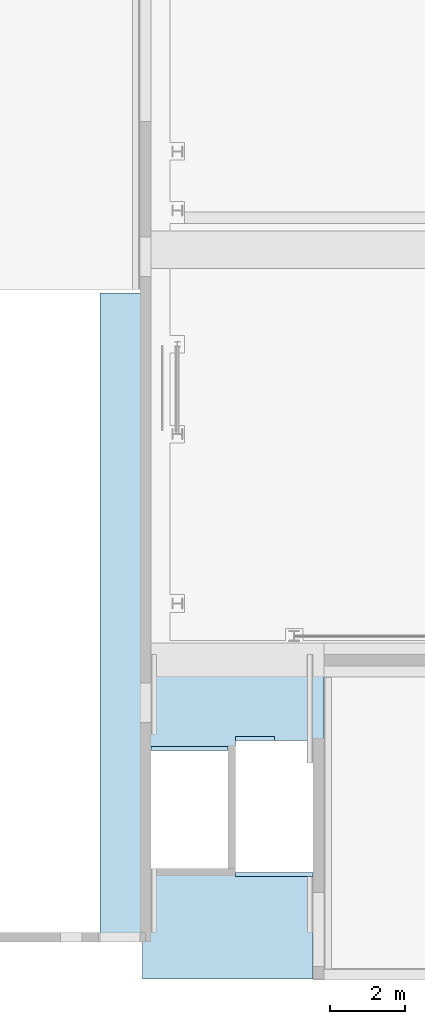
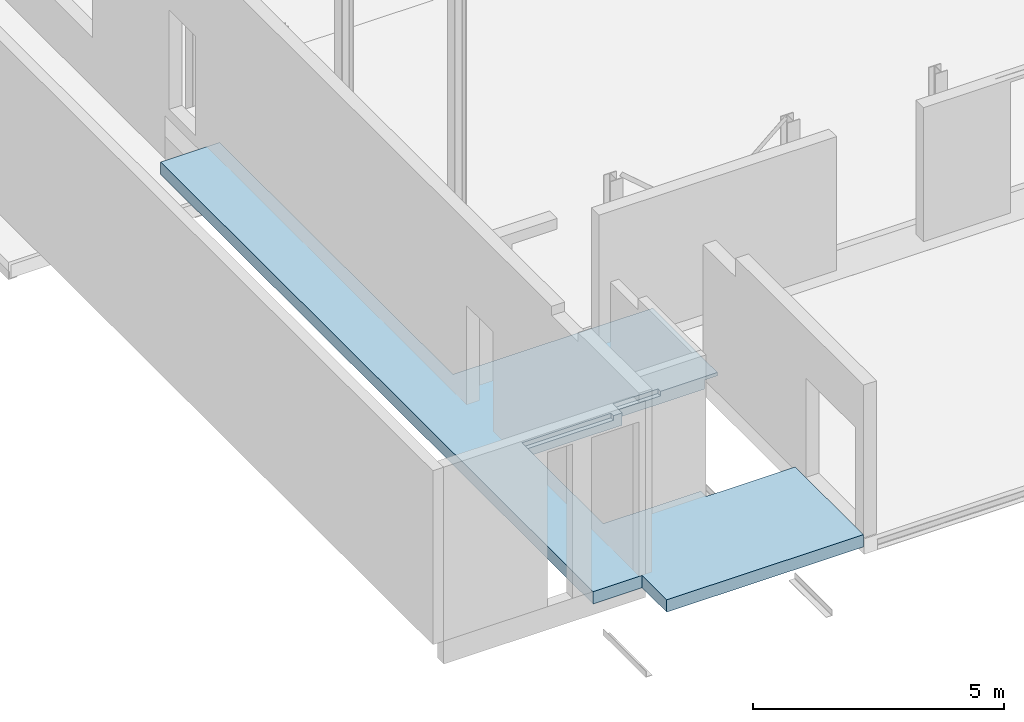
# One storey, part 32 of 37: 1 slab.
"""IFC2X3 building model written with IfcOpenShell, lengths in millimetres."""

from ifc_helpers import new_model, entity, si_unit, converted_unit, derived_unit, direction, frame, origin, place, context, subcontext, project, spatial, faceted_brep, material, type_object, element, save


model = new_model("IFC2X3")

# Units and contexts
model_context = context("Model", 3, precision=0.01, world=origin(), true_north=direction((6.12303176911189e-17, 1.0)))
body_context = subcontext(model_context, "Body", "Model", "MODEL_VIEW")
ifc_project = project(units=[si_unit("LENGTHUNIT", "METRE", prefix="MILLI"), si_unit("AREAUNIT", "SQUARE_METRE", prefix="MILLI"), si_unit("VOLUMEUNIT", "CUBIC_METRE"), converted_unit("PLANEANGLEUNIT", "DEGREE", entity("IfcRatioMeasure", 0.0174532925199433), si_unit("PLANEANGLEUNIT", "RADIAN"), dimensions=[0, 0, 0, 0, 0, 0, 0]), si_unit("MASSUNIT", "GRAM", prefix="KILO"), derived_unit("MASSDENSITYUNIT", [(si_unit("MASSUNIT", "GRAM", prefix="KILO"), 1), (si_unit("LENGTHUNIT", "METRE"), -3)]), derived_unit("MOMENTOFINERTIAUNIT", [(si_unit("LENGTHUNIT", "METRE"), 4)]), si_unit("TIMEUNIT", "SECOND"), si_unit("FREQUENCYUNIT", "HERTZ"), si_unit("THERMODYNAMICTEMPERATUREUNIT", "DEGREE_CELSIUS"), derived_unit("THERMALTRANSMITTANCEUNIT", [(si_unit("MASSUNIT", "GRAM", prefix="KILO"), 1), (si_unit("THERMODYNAMICTEMPERATUREUNIT", "KELVIN"), -1), (si_unit("TIMEUNIT", "SECOND"), -3)]), derived_unit("VOLUMETRICFLOWRATEUNIT", [(si_unit("LENGTHUNIT", "METRE"), 3), (si_unit("TIMEUNIT", "SECOND"), -1)]), si_unit("ELECTRICCURRENTUNIT", "AMPERE"), si_unit("ELECTRICVOLTAGEUNIT", "VOLT"), si_unit("POWERUNIT", "WATT"), si_unit("FORCEUNIT", "NEWTON", prefix="KILO"), si_unit("ILLUMINANCEUNIT", "LUX"), si_unit("LUMINOUSFLUXUNIT", "LUMEN"), si_unit("LUMINOUSINTENSITYUNIT", "CANDELA"), derived_unit("USERDEFINED", [(si_unit("MASSUNIT", "GRAM", prefix="KILO"), -1), (si_unit("LENGTHUNIT", "METRE"), -2), (si_unit("TIMEUNIT", "SECOND"), 3), (si_unit("LUMINOUSFLUXUNIT", "LUMEN"), 1)]), derived_unit("LINEARVELOCITYUNIT", [(si_unit("LENGTHUNIT", "METRE"), 1), (si_unit("TIMEUNIT", "SECOND"), -1)]), si_unit("PRESSUREUNIT", "PASCAL"), derived_unit("USERDEFINED", [(si_unit("LENGTHUNIT", "METRE"), -2), (si_unit("MASSUNIT", "GRAM", prefix="KILO"), 1), (si_unit("TIMEUNIT", "SECOND"), -2)]), derived_unit("LINEARFORCEUNIT", [(si_unit("MASSUNIT", "GRAM", prefix="KILO"), 1), (si_unit("LENGTHUNIT", "METRE"), 1), (si_unit("TIMEUNIT", "SECOND"), -2), (si_unit("LENGTHUNIT", "METRE"), -1)]), derived_unit("PLANARFORCEUNIT", [(si_unit("MASSUNIT", "GRAM", prefix="KILO"), 1), (si_unit("LENGTHUNIT", "METRE"), 1), (si_unit("TIMEUNIT", "SECOND"), -2), (si_unit("LENGTHUNIT", "METRE"), -2)])], contexts=[model_context])

# Site, building, storey
site_placement = place(None, origin())
site = spatial("IfcSite", under=ifc_project, at=site_placement, Name="Theater aan de Parade", CompositionType="ELEMENT")
building_placement = place(site_placement, origin())
building = spatial("IfcBuilding", under=site, at=building_placement, Name="Theater aan de Parade", CompositionType="ELEMENT")
storey_placement = place(building_placement, frame((0.0, 0.0, 5020.0)))
storey = spatial("IfcBuildingStorey", under=building, at=storey_placement, Name="01 eerste verdieping", CompositionType="ELEMENT", Elevation=5020.0)

# Slab
ifc_material = material(Name="00_PBT_MAT_beton t.p.g._C30/37")
slab_type = type_object("IfcSlabType", Name="Floor:28_PBT_FL_beton t.p.g._d=300_C30/37", PredefinedType="FLOOR")
slab_placement = place(storey_placement, origin())
element("IfcSlab", 1, at=slab_placement, inside=storey, type_object=slab_type, material=ifc_material, Name="Floor:28_PBT_FL_beton t.p.g._d=300_C30/37", ObjectType="Floor:28_PBT_FL_beton t.p.g._d=300_C30/37", PredefinedType="FLOOR", context=body_context, shape_type="Brep", body=[
    faceted_brep([(19653.8570025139, 9088.91803238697, -300.0), (15123.8570025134, 9088.91803238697, -300.0), (15123.8570025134, 10069.3270746, -300.0), (13994.1133121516, 10069.3270746, -300.0), (13994.1133121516, 10319.3270745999, -300.0), (13994.1133121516, 27319.3270746, -300.0), (15053.8570025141, 27319.3270746, -300.0), (15053.8570025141, 18011.308446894, -300.0), (19953.857002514, 18011.3084544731, -300.0), (19953.857002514, 17111.308446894, -300.0), (19653.8570025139, 17111.308446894, -300.0), (19653.8570025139, 15427.9664667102, -300.0), (17603.857002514, 15427.9664667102, -300.0), (17603.857002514, 15287.0518124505, -300.0), (17603.857002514, 15163.6270746, -300.0), (15353.8570025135, 15163.6270746, -300.0), (15353.8570025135, 12019.3270746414, -300.0), (17403.857002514, 12019.3270746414, -300.0), (17603.857002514, 12019.3270746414, -300.0), (17603.8570025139, 11909.3270747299, -300.0), (19653.8570025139, 11909.3270747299, -300.0), (15123.8570025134, 9088.91803238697, 0.0), (19653.8570025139, 9088.91803238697, 0.0), (19653.8570025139, 9412.0, 0.0), (19653.8570025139, 11387.0, 0.0), (19653.8570025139, 11809.3270747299, 0.0), (17603.8570025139, 11809.3270747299, 0.0), (17603.8570025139, 11819.3270746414, 0.0), (17603.857002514, 12019.3270746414, 0.0), (17403.857002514, 12019.3270746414, 0.0), (15353.8570025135, 12019.3270746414, 0.0), (15353.8570025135, 15263.6270746, 0.0), (17403.8570025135, 15263.6270746, 0.0), (17403.8570025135, 15163.6270746, 0.0), (17603.857002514, 15163.6270746, 0.0), (17603.857002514, 15287.0518124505, 0.0), (17603.857002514, 15527.9664667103, 0.0), (18638.857002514, 15527.9664667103, 0.0), (18638.857002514, 15427.9664667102, 0.0), (19653.857002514, 15427.9664667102, 0.0), (19953.857002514, 15427.9664667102, 0.0), (19953.857002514, 15495.5270746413, 0.0), (19953.857002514, 17411.3084468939, 0.0), (19953.857002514, 17711.3084468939, 0.0), (19953.857002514, 18011.3084544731, 0.0), (15353.8570025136, 18011.3084544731, 0.0), (15353.8570025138, 27319.3270746, 0.0), (15053.8570025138, 27319.3270746, 0.0), (13994.1133121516, 27319.3270746, 0.0), (13994.1133121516, 10319.3270745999, 0.0), (13994.1133121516, 10069.3270746, 0.0), (15054.09381229, 10069.3270746, 0.0), (15123.8570025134, 10069.3270746, 0.0), (19653.8570025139, 9088.91803238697, -80.0), (15353.8570025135, 15163.6270746, -110.0), (15353.8570025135, 15263.6270746, -110.0), (15053.8570025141, 18011.308446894, -250.0), (15353.8570025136, 18011.3084544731, -250.0), (19653.8570025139, 11909.3270747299, -110.0), (19653.8570025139, 11809.3270747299, -110.0), (19653.8570025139, 11809.3270747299, -80.0), (17403.8570025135, 15163.6270746, -110.0), (15353.8570025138, 27319.3270746, -250.0), (15053.8570025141, 27319.3270746, -250.0), (19953.857002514, 15427.9664667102, -80.0), (19953.857002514, 17111.308446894, -80.0), (19653.8570025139, 15427.9664667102, -80.0), (19653.8570025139, 17111.308446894, -80.0), (17403.8570025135, 15263.6270746, -110.0), (17603.8570025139, 11809.3270747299, -110.0), (17603.8570025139, 11909.3270747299, -110.0), (18638.857002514, 15427.9664667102, -110.0), (17603.857002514, 15427.9664667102, -110.0), (17603.857002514, 15527.9664667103, -110.0), (18638.857002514, 15527.9664667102, -110.0)], [[[0, 1, 2, 3, 4, 5, 6, 7, 8, 9, 10, 11, 12, 13, 14, 15, 16, 17, 18, 19, 20]], [[21, 22, 23, 24, 25, 26, 27, 28, 29, 30, 31, 32, 33, 34, 35, 36, 37, 38, 39, 40, 41, 42, 43, 44, 45, 46, 47, 48, 49, 50, 51, 52]], [[1, 0, 53, 22, 21]], [[16, 15, 54, 55, 31, 30]], [[45, 44, 8, 7, 56, 57]], [[0, 20, 58, 59, 60, 25, 24, 23, 22, 53]], [[2, 1, 21, 52]], [[18, 17, 16, 30, 29, 28]], [[15, 14, 34, 33, 61, 54]], [[3, 2, 52, 51, 50]], [[5, 4, 3, 50, 49, 48]], [[48, 47, 46, 62, 63, 6, 5]], [[46, 45, 57, 62]], [[44, 43, 42, 41, 40, 64, 65, 9, 8]], [[57, 56, 63, 62]], [[63, 56, 7, 6]], [[66, 67, 65, 64]], [[67, 66, 11, 10]], [[65, 67, 10, 9]], [[55, 54, 61, 68]], [[68, 61, 33, 32]], [[55, 68, 32, 31]], [[19, 18, 28, 27, 26, 69, 70]], [[20, 19, 70, 58]], [[70, 69, 59, 58]], [[59, 69, 26, 25, 60]], [[40, 39, 38, 71, 72, 12, 11, 66, 64]], [[14, 13, 12, 72, 73, 36, 35, 34]], [[73, 72, 71, 74]], [[74, 71, 38, 37]], [[73, 74, 37, 36]]]),
])

save(model, "model.ifc")
